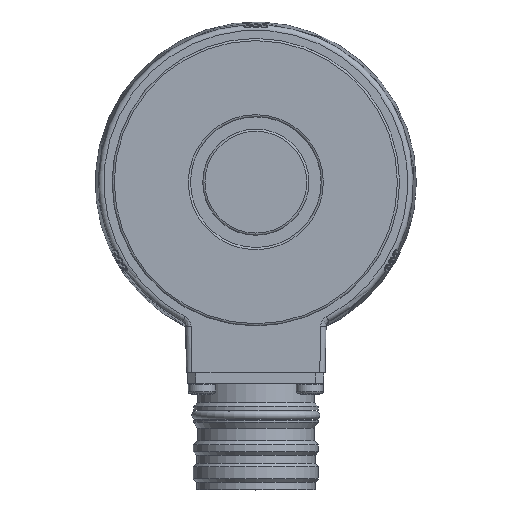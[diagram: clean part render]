
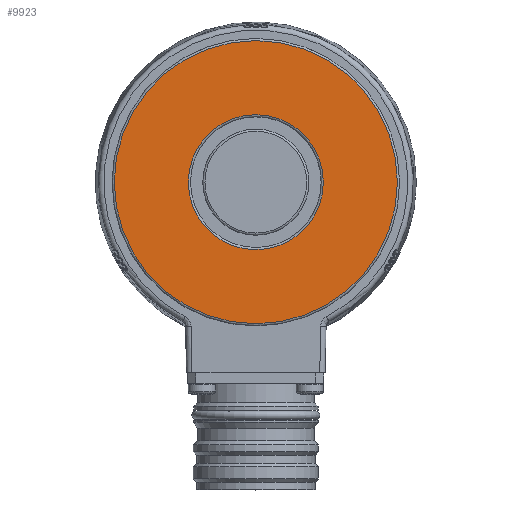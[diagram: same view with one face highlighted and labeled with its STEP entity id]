
A CAD part, top view. The second image highlights one B-rep face of the part: STEP entity #9923.
In plain terms, the highlighted planar face has unit normal (0, 0, 1).
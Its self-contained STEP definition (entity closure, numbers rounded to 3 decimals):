
#4731=ORIENTED_EDGE('',*,*,#6175,.T.);
#4732=ORIENTED_EDGE('',*,*,#6185,.F.);
#6175=EDGE_CURVE('',#7159,#7159,#7503,.T.);
#6185=EDGE_CURVE('',#7160,#7160,#7504,.T.);
#7159=VERTEX_POINT('',#25668);
#7160=VERTEX_POINT('',#25698);
#7503=CIRCLE('',#10737,26.004);
#7504=CIRCLE('',#10757,12.4);
#8292=EDGE_LOOP('',(#4731));
#8293=EDGE_LOOP('',(#4732));
#9098=FACE_BOUND('',#8292,.T.);
#9099=FACE_BOUND('',#8293,.T.);
#9305=PLANE('',#10756);
#9923=ADVANCED_FACE('',(#9098,#9099),#9305,.T.);
#10737=AXIS2_PLACEMENT_3D('',#25667,#12742,#12743);
#10756=AXIS2_PLACEMENT_3D('',#25696,#12789,#12790);
#10757=AXIS2_PLACEMENT_3D('',#25697,#12791,#12792);
#12742=DIRECTION('',(0.,0.,1.));
#12743=DIRECTION('',(1.,0.,0.));
#12789=DIRECTION('',(0.,0.,1.));
#12790=DIRECTION('',(1.,0.,0.));
#12791=DIRECTION('',(0.,0.,1.));
#12792=DIRECTION('',(1.,0.,0.));
#25667=CARTESIAN_POINT('',(0.,0.,34.5));
#25668=CARTESIAN_POINT('',(26.004,0.,34.5));
#25696=CARTESIAN_POINT('',(0.,0.,34.5));
#25697=CARTESIAN_POINT('',(0.,0.,34.5));
#25698=CARTESIAN_POINT('',(12.4,0.,34.5));
